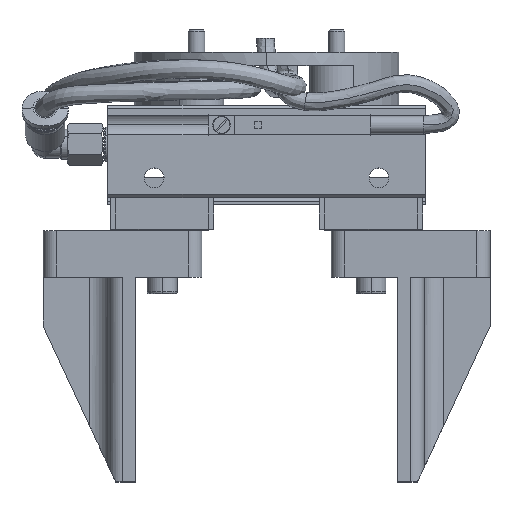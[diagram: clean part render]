
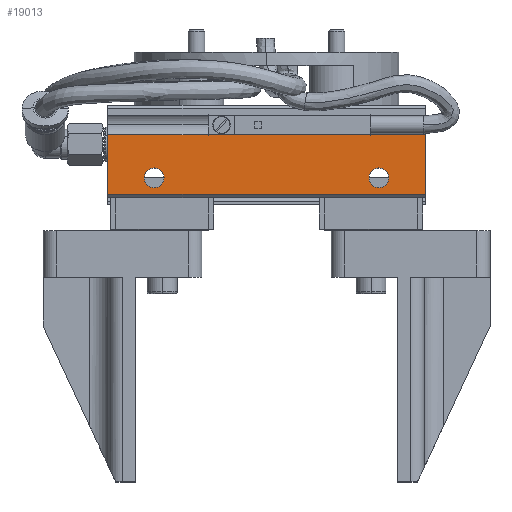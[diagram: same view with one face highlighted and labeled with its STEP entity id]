
A CAD part, top view. The second image highlights one B-rep face of the part: STEP entity #19013.
In plain terms, the highlighted planar face has unit normal (0, 0, 1).
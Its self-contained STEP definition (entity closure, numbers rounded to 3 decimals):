
#559 = VERTEX_POINT ( 'NONE', #18623 ) ;
#888 = CARTESIAN_POINT ( 'NONE',  ( 19.198, -28.606, 72. ) ) ;
#1378 = CARTESIAN_POINT ( 'NONE',  ( -28.802, -15.106, 72. ) ) ;
#1489 = EDGE_CURVE ( 'NONE', #13443, #6830, #14153, .T. ) ;
#1541 = VECTOR ( 'NONE', #23631, 1000. ) ;
#1798 = CARTESIAN_POINT ( 'NONE',  ( 19.198, -19.607, 72. ) ) ;
#1893 = AXIS2_PLACEMENT_3D ( 'NONE', #4694, #20353, #2898 ) ;
#1902 = CARTESIAN_POINT ( 'NONE',  ( -28.802, -28.606, 72. ) ) ;
#2000 = CARTESIAN_POINT ( 'NONE',  ( -21.802, -27.606, 72. ) ) ;
#2898 = DIRECTION ( 'NONE',  ( 0., 1., 0. ) ) ;
#3079 = FACE_BOUND ( 'NONE', #13959, .T. ) ;
#3318 = ORIENTED_EDGE ( 'NONE', *, *, #15907, .F. ) ;
#3482 = AXIS2_PLACEMENT_3D ( 'NONE', #1378, #9257, #6691 ) ;
#3914 = ORIENTED_EDGE ( 'NONE', *, *, #16421, .T. ) ;
#4601 = VERTEX_POINT ( 'NONE', #21593 ) ;
#4694 = CARTESIAN_POINT ( 'NONE',  ( -21.802, -26.106, 72. ) ) ;
#4773 = AXIS2_PLACEMENT_3D ( 'NONE', #6344, #22003, #16021 ) ;
#4780 = DIRECTION ( 'NONE',  ( 0., 1., 0. ) ) ;
#4857 = CIRCLE ( 'NONE', #19735, 1.5 ) ;
#5259 = FACE_BOUND ( 'NONE', #8418, .T. ) ;
#6344 = CARTESIAN_POINT ( 'NONE',  ( 12.198, -26.106, 72. ) ) ;
#6599 = DIRECTION ( 'NONE',  ( 0., 0., 1. ) ) ;
#6690 = VECTOR ( 'NONE', #19140, 1000. ) ;
#6691 = DIRECTION ( 'NONE',  ( 0., -1., 0. ) ) ;
#6730 = LINE ( 'NONE', #18599, #7017 ) ;
#6830 = VERTEX_POINT ( 'NONE', #1798 ) ;
#7017 = VECTOR ( 'NONE', #14724, 1000. ) ;
#7041 = CARTESIAN_POINT ( 'NONE',  ( -21.802, -26.106, 72. ) ) ;
#7082 = PLANE ( 'NONE',  #3482 ) ;
#8418 = EDGE_LOOP ( 'NONE', ( #3318, #19525 ) ) ;
#8751 = ORIENTED_EDGE ( 'NONE', *, *, #10042, .T. ) ;
#8895 = CARTESIAN_POINT ( 'NONE',  ( 12.198, -26.106, 72. ) ) ;
#9257 = DIRECTION ( 'NONE',  ( 0., 0., -1. ) ) ;
#9428 = CARTESIAN_POINT ( 'NONE',  ( 19.198, -15.106, 72. ) ) ;
#9690 = EDGE_LOOP ( 'NONE', ( #22448, #3914, #8751, #13895 ) ) ;
#10042 = EDGE_CURVE ( 'NONE', #25221, #6830, #13828, .T. ) ;
#10743 = ORIENTED_EDGE ( 'NONE', *, *, #17824, .F. ) ;
#12370 = EDGE_CURVE ( 'NONE', #14825, #13443, #6730, .T. ) ;
#12792 = CARTESIAN_POINT ( 'NONE',  ( -21.802, -24.606, 72. ) ) ;
#12981 = CIRCLE ( 'NONE', #1893, 1.5 ) ;
#13083 = DIRECTION ( 'NONE',  ( 0., 1., 0. ) ) ;
#13179 = CARTESIAN_POINT ( 'NONE',  ( -28.802, -28.606, 72. ) ) ;
#13443 = VERTEX_POINT ( 'NONE', #21456 ) ;
#13780 = CARTESIAN_POINT ( 'NONE',  ( -28.802, -19.607, 72. ) ) ;
#13828 = LINE ( 'NONE', #9428, #6690 ) ;
#13895 = ORIENTED_EDGE ( 'NONE', *, *, #1489, .F. ) ;
#13959 = EDGE_LOOP ( 'NONE', ( #18032, #10743 ) ) ;
#14153 = LINE ( 'NONE', #13780, #1541 ) ;
#14724 = DIRECTION ( 'NONE',  ( 0., 1., 0. ) ) ;
#14825 = VERTEX_POINT ( 'NONE', #1902 ) ;
#15907 = EDGE_CURVE ( 'NONE', #24945, #23985, #12981, .T. ) ;
#16021 = DIRECTION ( 'NONE',  ( 0., 1., 0. ) ) ;
#16421 = EDGE_CURVE ( 'NONE', #14825, #25221, #24852, .T. ) ;
#16574 = AXIS2_PLACEMENT_3D ( 'NONE', #7041, #18913, #13083 ) ;
#17824 = EDGE_CURVE ( 'NONE', #559, #4601, #25433, .T. ) ;
#17834 = CIRCLE ( 'NONE', #16574, 1.5 ) ;
#17948 = VECTOR ( 'NONE', #21092, 1000. ) ;
#18032 = ORIENTED_EDGE ( 'NONE', *, *, #22011, .F. ) ;
#18599 = CARTESIAN_POINT ( 'NONE',  ( -28.802, -15.106, 72. ) ) ;
#18623 = CARTESIAN_POINT ( 'NONE',  ( 12.198, -27.606, 72. ) ) ;
#18913 = DIRECTION ( 'NONE',  ( 0., 0., 1. ) ) ;
#19013 = ADVANCED_FACE ( 'NONE', ( #5259, #3079, #19093 ), #7082, .F. ) ;
#19093 = FACE_OUTER_BOUND ( 'NONE', #9690, .T. ) ;
#19140 = DIRECTION ( 'NONE',  ( 0., 1., 0. ) ) ;
#19525 = ORIENTED_EDGE ( 'NONE', *, *, #23897, .F. ) ;
#19735 = AXIS2_PLACEMENT_3D ( 'NONE', #8895, #6599, #4780 ) ;
#20353 = DIRECTION ( 'NONE',  ( 0., 0., 1. ) ) ;
#21092 = DIRECTION ( 'NONE',  ( 1., 0., 0. ) ) ;
#21456 = CARTESIAN_POINT ( 'NONE',  ( -28.802, -19.607, 72. ) ) ;
#21593 = CARTESIAN_POINT ( 'NONE',  ( 12.198, -24.606, 72. ) ) ;
#22003 = DIRECTION ( 'NONE',  ( 0., 0., 1. ) ) ;
#22011 = EDGE_CURVE ( 'NONE', #4601, #559, #4857, .T. ) ;
#22448 = ORIENTED_EDGE ( 'NONE', *, *, #12370, .F. ) ;
#23631 = DIRECTION ( 'NONE',  ( 1., 0., 0. ) ) ;
#23897 = EDGE_CURVE ( 'NONE', #23985, #24945, #17834, .T. ) ;
#23985 = VERTEX_POINT ( 'NONE', #2000 ) ;
#24852 = LINE ( 'NONE', #13179, #17948 ) ;
#24945 = VERTEX_POINT ( 'NONE', #12792 ) ;
#25221 = VERTEX_POINT ( 'NONE', #888 ) ;
#25433 = CIRCLE ( 'NONE', #4773, 1.5 ) ;
